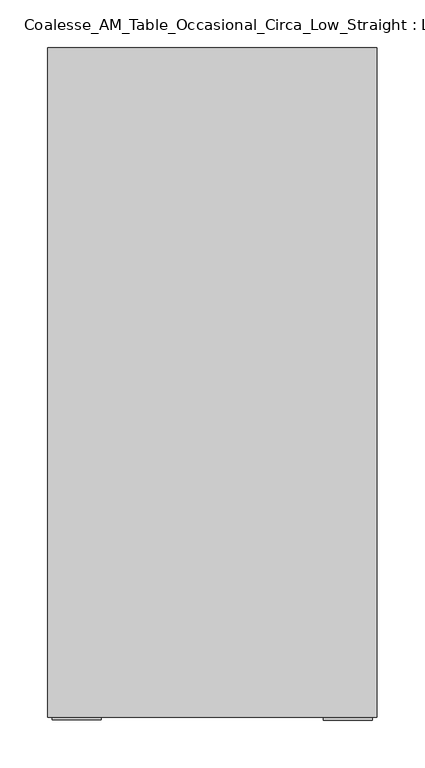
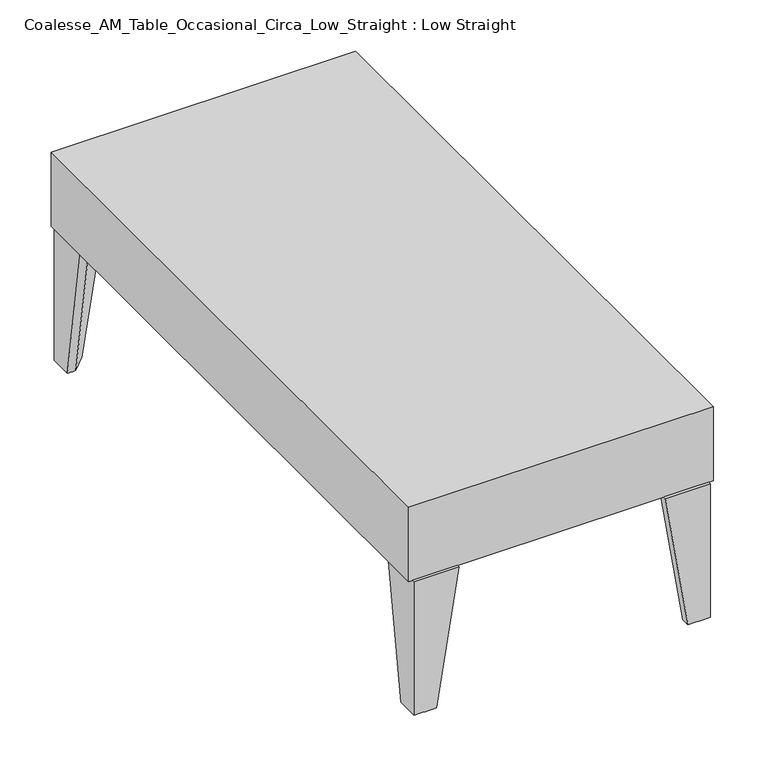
"""IFC4 building model written with IfcOpenShell, lengths in millimetres: furniture geometry, Coalesse_AM_Table_Occasional_Circa_Low_Straight : Low Straight."""

import ifcopenshell
import ifcopenshell.guid

model = None  # the IFC model being written
_history = None  # IfcOwnerHistory: only IFC2X3 demands one
_inside = {}  # id of a spatial element -> (the spatial element, [elements in it])
_under = {}  # id of a project, library or spatial element -> (it, [spatial elements below it])
_declared = {}  # id of a project -> (the project, [libraries it declares])
_typed = {}  # id of a type object -> (the type object, [elements of that type])
_made_of = {}  # id of a material, layer set ... -> (it, [elements and type objects made of it])


def new_model(schema):
    """Start an empty IFC model of exactly this schema.

    Asked for "IFC4X3", IfcOpenShell would pick the latest addendum, in which some entities
    have other attributes; the version numbers below select the first issue.
    IFC2X3 requires an IfcOwnerHistory on every rooted entity: one is made here for all.
    """
    global model, _history
    if schema == "IFC4X3":
        model = ifcopenshell.file(schema_version=(4, 3, 0, 0))
    else:
        model = ifcopenshell.file(schema=schema)
    _inside.clear()
    _under.clear()
    _declared.clear()
    _typed.clear()
    _made_of.clear()
    _history = None
    if model.schema == "IFC2X3":
        org = make("IfcOrganization", Name="unknown")
        user = make(
            "IfcPersonAndOrganization",
            ThePerson=make("IfcPerson", FamilyName="unknown"),
            TheOrganization=org,
        )
        app = make(
            "IfcApplication",
            ApplicationDeveloper=org,
            Version="unknown",
            ApplicationFullName="unknown",
            ApplicationIdentifier="unknown",
        )
        _history = make(
            "IfcOwnerHistory",
            OwningUser=user,
            OwningApplication=app,
            ChangeAction="ADDED",
            CreationDate=0,
        )
    return model


def make(cls, **values):
    """One entity of the class cls with the attributes given. An attribute that is None is left unset."""
    return model.create_entity(
        cls, **{name: value for name, value in values.items() if value is not None}
    )


def rooted(cls, **values):
    """An entity with a GlobalId (a new one), such as an element, a storey or a relation."""
    return make(cls, GlobalId=ifcopenshell.guid.new(), OwnerHistory=_history, **values)


def si_unit(unit_type, name, prefix=None):
    """IfcSIUnit, for example si_unit("LENGTHUNIT", "METRE", prefix="MILLI")."""
    return make("IfcSIUnit", UnitType=unit_type, Prefix=prefix, Name=name)


def assignment(units):
    """IfcUnitAssignment: the units of a project."""
    return None if units is None else make("IfcUnitAssignment", Units=units)


def point(xyz):
    """IfcCartesianPoint."""
    return None if xyz is None else make("IfcCartesianPoint", Coordinates=xyz)


def direction(xyz):
    """IfcDirection."""
    return None if xyz is None else make("IfcDirection", DirectionRatios=xyz)


def frame(location, z_axis=None, x_axis=None):
    """IfcAxis2Placement3D, a coordinate frame: its origin and axes. An axis left out is left unset."""
    return make(
        "IfcAxis2Placement3D",
        Location=point(location),
        Axis=direction(z_axis),
        RefDirection=direction(x_axis),
    )


def origin():
    """The frame at (0, 0, 0) with its axes left unset."""
    return frame((0.0, 0.0, 0.0))


def place(relative_to, where):
    """IfcLocalPlacement: puts the frame where relative to a parent placement (None: the world)."""
    return make(
        "IfcLocalPlacement", PlacementRelTo=relative_to, RelativePlacement=where
    )


def context(
    kind, dimensions, precision=None, world=None, true_north=None, identifier=None
):
    """IfcGeometricRepresentationContext, for example the 3D "Model" context."""
    return make(
        "IfcGeometricRepresentationContext",
        ContextIdentifier=identifier,
        ContextType=kind,
        CoordinateSpaceDimension=dimensions,
        Precision=precision,
        WorldCoordinateSystem=world,
        TrueNorth=true_north,
    )


def project(units=None, contexts=None):
    """IfcProject with its units and contexts."""
    return rooted(
        "IfcProject",
        Name="project",
        RepresentationContexts=contexts,
        UnitsInContext=assignment(units),
    )


def spatial(cls, under=None, at=None, **own):
    """A site, building, storey or space (cls), placed at a placement, below another one or the project."""
    s = rooted(cls, ObjectPlacement=at, **own)
    if under is not None:
        _under.setdefault(under.id(), (under, []))[1].append(s)
    return s


def polyline(points):
    """IfcPolyline through the points."""
    return make("IfcPolyline", Points=[point(p) for p in points])


def outline(outer, holes=None, kind="AREA"):
    """IfcArbitraryClosedProfileDef: a profile drawn as a closed curve; with holes, ...WithVoids."""
    if holes is None:
        return make("IfcArbitraryClosedProfileDef", ProfileType=kind, OuterCurve=outer)
    return make(
        "IfcArbitraryProfileDefWithVoids",
        ProfileType=kind,
        OuterCurve=outer,
        InnerCurves=holes,
    )


def extrude(swept, where, along, depth):
    """IfcExtrudedAreaSolid: the profile swept, set in the frame where, extruded along a direction by depth."""
    return make(
        "IfcExtrudedAreaSolid",
        SweptArea=swept,
        Position=where,
        ExtrudedDirection=direction(along),
        Depth=depth,
    )


def shape(context_of_items, identifier, shape_type, items):
    """IfcShapeRepresentation: the items that make up one representation, for example the "Body"."""
    return make(
        "IfcShapeRepresentation",
        ContextOfItems=context_of_items,
        RepresentationIdentifier=identifier,
        RepresentationType=shape_type,
        Items=items,
    )


def source(mapping_origin, context_of_items, identifier, shape_type, items):
    """IfcRepresentationMap: a shape defined once, which mapped items show again and again."""
    return make(
        "IfcRepresentationMap",
        MappingOrigin=mapping_origin,
        MappedRepresentation=shape(context_of_items, identifier, shape_type, items),
    )


def transform(
    local_origin,
    x_axis=None,
    y_axis=None,
    z_axis=None,
    scale=None,
    scale2=None,
    scale3=None,
    uniform=True,
):
    """IfcCartesianTransformationOperator3D, or its non-uniform kind. x_axis, y_axis, z_axis: its Axis1, 2, 3."""
    if uniform:
        return make(
            "IfcCartesianTransformationOperator3D",
            Axis1=direction(x_axis),
            Axis2=direction(y_axis),
            LocalOrigin=point(local_origin),
            Scale=scale,
            Axis3=direction(z_axis),
        )
    return make(
        "IfcCartesianTransformationOperator3DnonUniform",
        Axis1=direction(x_axis),
        Axis2=direction(y_axis),
        LocalOrigin=point(local_origin),
        Scale=scale,
        Axis3=direction(z_axis),
        Scale2=scale2,
        Scale3=scale3,
    )


def mapped(mapping_source, mapping_target):
    """IfcMappedItem: shows the shape of a source again, moved by a transform."""
    return make(
        "IfcMappedItem", MappingSource=mapping_source, MappingTarget=mapping_target
    )


def made_of(thing, what):
    """Note that an element or type object is made of a material, layer set ...; save() writes the relation."""
    if what is not None:
        _made_of.setdefault(what.id(), (what, []))[1].append(thing)
    return thing


def element(
    cls,
    number,
    at=None,
    inside=None,
    cuts=None,
    type_object=None,
    material=None,
    context=None,
    identifier="Body",
    shape_type=None,
    held_by="IfcProductDefinitionShape",
    body=None,
    shapes=None,
    **own,
):
    """One element of the class cls, such as IfcWall. Its Tag is "e" and its number.

    at: its placement. inside: the storey or other place that contains it. cuts: it is an
    opening in that element (IfcRelVoidsElement). A single representation is given by context,
    identifier, shape_type and body (its items); several are given by shapes. held_by: the class
    of the entity that holds the representations. save() writes the other relations.
    """
    e = rooted(cls, Tag="e%d" % number, ObjectPlacement=at, **own)
    if body is not None:
        shapes = [shape(context, identifier, shape_type, body)]
    if shapes is not None:
        e.Representation = make(held_by, Representations=shapes)
    if inside is not None:
        _inside.setdefault(inside.id(), (inside, []))[1].append(e)
    if cuts is not None:
        rooted(
            "IfcRelVoidsElement", RelatingBuildingElement=cuts, RelatedOpeningElement=e
        )
    if type_object is not None:
        _typed.setdefault(type_object.id(), (type_object, []))[1].append(e)
    return made_of(e, material)


def aggregate(whole, parts):
    """IfcRelAggregates: a whole, such as a stair, and the parts it consists of."""
    return rooted("IfcRelAggregates", RelatingObject=whole, RelatedObjects=parts)


def save(model, path):
    """Write the relations noted so far, then the file.

    IfcRelAggregates (storeys below a building ...), IfcRelContainedInSpatialStructure (elements
    in a storey), IfcRelDefinesByType, IfcRelAssociatesMaterial and IfcRelDeclares: one each for
    every whole, place, type object, material and project.
    """
    for whole, parts in _under.values():
        aggregate(whole, parts)
    for where, things in _inside.values():
        rooted(
            "IfcRelContainedInSpatialStructure",
            RelatedElements=things,
            RelatingStructure=where,
        )
    for kind, things in _typed.values():
        rooted("IfcRelDefinesByType", RelatedObjects=things, RelatingType=kind)
    for what, things in _made_of.values():
        rooted("IfcRelAssociatesMaterial", RelatedObjects=things, RelatingMaterial=what)
    for by, libraries in _declared.values():
        rooted("IfcRelDeclares", RelatingContext=by, RelatedDefinitions=libraries)
    model.write(path)


def plane_surface(at):
    """IfcPlane: the flat surface through the origin of the frame at, square to its z axis."""
    return make("IfcPlane", Position=at)


def spline_surface(u_degree, v_degree, points, u_multiplicities, v_multiplicities, u_knots, v_knots, weights=None):
    """IfcBSplineSurfaceWithKnots; with weights, IfcRationalBSplineSurfaceWithKnots. points: one row for each step in u."""
    own = dict(
        UDegree=u_degree,
        VDegree=v_degree,
        ControlPointsList=[[point(p) for p in row] for row in points],
        SurfaceForm="UNSPECIFIED",
        UClosed=False,
        VClosed=False,
        SelfIntersect=False,
        UMultiplicities=u_multiplicities,
        VMultiplicities=v_multiplicities,
        UKnots=u_knots,
        VKnots=v_knots,
        KnotSpec="UNSPECIFIED",
    )
    if weights is None:
        return make("IfcBSplineSurfaceWithKnots", **own)
    return make("IfcRationalBSplineSurfaceWithKnots", WeightsData=weights, **own)


def advanced_brep(points, edges, surfaces, faces):
    """IfcAdvancedBrep: a solid bounded by faces that lie on surfaces and meet in shared edges.

    An edge is (start, end): straight between two places in points (the first is 0);
    or (start, end, curve); or (start, end, curve, False) where it runs against its curve.
    A face is (place in surfaces, loops), or (place, loops, False) where it looks against
    its surface's normal. A loop lists edges by number (the first is 1), with a minus sign
    where the edge is run from its end to its start. The first loop is the outer one.
    """
    corners = [point(p) for p in points]
    vertices = [make("IfcVertexPoint", VertexGeometry=c) for c in corners]
    made = []
    for start, end, *more in edges:
        made.append(
            make(
                "IfcEdgeCurve",
                EdgeStart=vertices[start],
                EdgeEnd=vertices[end],
                EdgeGeometry=more[0] if more else make("IfcPolyline", Points=[corners[start], corners[end]]),
                SameSense=more[1] if len(more) > 1 else True,
            )
        )
    hull = []
    for where, loops, *sense in faces:
        bounds = []
        for j, loop in enumerate(loops):
            ring = [make("IfcOrientedEdge", EdgeElement=made[abs(k) - 1], Orientation=k > 0) for k in loop]
            bounds.append(
                make(
                    "IfcFaceOuterBound" if j == 0 else "IfcFaceBound",
                    Bound=make("IfcEdgeLoop", EdgeList=ring),
                    Orientation=True,
                )
            )
        hull.append(make("IfcAdvancedFace", Bounds=bounds, FaceSurface=surfaces[where], SameSense=sense[0] if sense else True))
    return make("IfcAdvancedBrep", Outer=make("IfcClosedShell", CfsFaces=hull))


def coalesse_am_table_occasional_circa_low_straight_low_straight_29d6d99f(model_context):
    return source(origin(), model_context, "Body", "SolidModel", [
        advanced_brep(
        [(-322.383652, 214.2603105, 0.0), (-322.3836883, 188.8603105, 0.0), (-331.908107, 188.8602515, 0.0), (-347.7821153, 204.734596, 0.0), (-347.7821017, 214.2603469, 0.0), (-322.3830706, 214.2591236, 159.258), (-373.1811328, 214.2591236, 159.258), (-373.1811464, 204.7344869, 159.258), (-331.9081433, 163.4616564, 159.258), (-322.3831433, 163.4616428, 159.258)],
        [
            (0, 1),
            (1, 2),
            (2, 3),
            (3, 4),
            (4, 0),
            (5, 6),
            (6, 7),
            (7, 8),
            (8, 9),
            (9, 5),
            (9, 1),
            (0, 5),
            (8, 2),
            (7, 3),
            (6, 4),
        ],
        [
            plane_surface(frame((-334.4479329, 202.1951631, 0.0), z_axis=(0.0, 0.0, -1.0000000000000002), x_axis=(1.4305660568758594e-06, 0.9999999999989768, 0.0))),
            plane_surface(frame((-344.6073273, 192.0352067, 159.258), z_axis=(0.0, 0.0, 1.0000000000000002), x_axis=(1.4305660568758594e-06, 0.9999999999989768, 0.0))),
            plane_surface(frame((-322.383107, 188.8603832, 159.258), z_axis=(0.999999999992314, -1.430566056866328e-06, -3.650428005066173e-06), x_axis=(-1.4305660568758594e-06, -0.9999999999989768, 0.0))),
            spline_surface(1, 1, [[(-322.3831433, 163.4616428, 159.258), (-322.3836883, 188.8603105, 0.0)], [(-331.9081433, 163.4616564, 159.258), (-331.908107, 188.8602515, 0.0)]], [2, 2], [2, 2], [0.0, 1.0], [0.0, 1.0]),
            spline_surface(1, 1, [[(-331.9081433, 163.4616564, 159.258), (-331.908107, 188.8602515, 0.0)], [(-373.1811464, 204.7344869, 159.258), (-347.7821153, 204.734596, 0.0)]], [2, 2], [2, 2], [0.0, 1.0], [0.0, 1.0]),
            plane_surface(frame((-373.1811396, 209.4968053, 159.258), z_axis=(-0.9875200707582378, 1.4127126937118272e-06, -0.15749320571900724), x_axis=(1.4305660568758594e-06, 0.9999999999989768, 0.0))),
            spline_surface(1, 1, [[(-373.1811328, 214.2591236, 159.258), (-347.7821017, 214.2603469, 0.0)], [(-322.3830706, 214.2591236, 159.258), (-322.383652, 214.2603105, 0.0)]], [2, 2], [2, 2], [0.0, 1.0], [0.0, 1.0]),
        ],
        [
            (0, [[1, 2, 3, 4, 5]]),
            (1, [[6, 7, 8, 9, 10]]),
            (2, [[-10, 11, -1, 12]]),
            (3, [[-9, 13, -2, -11]]),
            (4, [[-8, 14, -3, -13]]),
            (5, [[-7, 15, -4, -14]]),
            (6, [[-6, -12, -5, -15]]),
        ],
    ),
        advanced_brep(
        [(-325.4409859, -484.6427555, 0.0), (-350.8394356, -484.6427918, 0.0), (-350.8394492, -475.1170409, 0.0), (-334.9654408, -459.2426965, 0.0), (-325.4410222, -459.2427555, 0.0), (-325.4404045, -484.6415686, 159.258), (-325.4404772, -433.8440878, 159.258), (-334.9654772, -433.8441014, 159.258), (-376.2384803, -475.1169319, 159.258), (-376.2384666, -484.6415686, 159.258)],
        [
            (0, 1),
            (1, 2),
            (2, 3),
            (3, 4),
            (4, 0),
            (5, 6),
            (6, 7),
            (7, 8),
            (8, 9),
            (9, 5),
            (9, 1),
            (0, 5),
            (8, 2),
            (7, 3),
            (6, 4),
        ],
        [
            plane_surface(frame((-337.5052667, -472.577608, 0.0), z_axis=(0.0, 0.0, -1.0000000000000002), x_axis=(-0.9999999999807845, 6.19929416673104e-06, 0.0))),
            plane_surface(frame((-347.6646611, -462.4176516, 159.258), z_axis=(0.0, 0.0, 1.0000000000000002), x_axis=(-0.9999999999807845, 6.19929416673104e-06, 0.0))),
            spline_surface(1, 1, [[(-325.4404045, -484.6415686, 159.258), (-325.4409859, -484.6427555, 0.0)], [(-376.2384666, -484.6415686, 159.258), (-350.8394356, -484.6427918, 0.0)]], [2, 2], [2, 2], [0.0, 1.0], [0.0, 1.0]),
            plane_surface(frame((-376.2384734, -479.8792502, 159.258), z_axis=(-0.9875200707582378, -1.4127126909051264e-06, -0.15749320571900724), x_axis=(-1.4305660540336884e-06, 0.9999999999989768, 0.0))),
            spline_surface(1, 1, [[(-376.2384803, -475.1169319, 159.258), (-350.8394492, -475.1170409, 0.0)], [(-334.9654772, -433.8441014, 159.258), (-334.9654408, -459.2426965, 0.0)]], [2, 2], [2, 2], [0.0, 1.0], [0.0, 1.0]),
            spline_surface(1, 1, [[(-334.9654772, -433.8441014, 159.258), (-334.9654408, -459.2426965, 0.0)], [(-325.4404772, -433.8440878, 159.258), (-325.4410222, -459.2427555, 0.0)]], [2, 2], [2, 2], [0.0, 1.0], [0.0, 1.0]),
            plane_surface(frame((-325.4404408, -459.2428282, 159.258), z_axis=(0.999999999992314, 1.430566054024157e-06, -3.6504280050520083e-06), x_axis=(1.4305660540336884e-06, -0.9999999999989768, 0.0))),
        ],
        [
            (0, [[1, 2, 3, 4, 5]]),
            (1, [[6, 7, 8, 9, 10]]),
            (2, [[-10, 11, -1, 12]]),
            (3, [[-9, 13, -2, -11]]),
            (4, [[-8, 14, -3, -13]]),
            (5, [[-7, 15, -4, -14]]),
            (6, [[-6, -12, -5, -15]]),
        ],
    ),
        advanced_brep(
        [(-661.6348061, 214.2603105, 0.0), (-636.2363564, 214.2603469, 0.0), (-636.2363428, 204.734596, 0.0), (-652.1103511, 188.8602515, 0.0), (-661.6347698, 188.8603105, 0.0), (-661.6353875, 214.2591236, 159.258), (-661.6353148, 163.4616428, 159.258), (-652.1103148, 163.4616564, 159.258), (-610.8373117, 204.7344869, 159.258), (-610.8373253, 214.2591236, 159.258)],
        [
            (0, 1),
            (1, 2),
            (2, 3),
            (3, 4),
            (4, 0),
            (5, 6),
            (6, 7),
            (7, 8),
            (8, 9),
            (9, 5),
            (9, 1),
            (0, 5),
            (8, 2),
            (7, 3),
            (6, 4),
        ],
        [
            plane_surface(frame((-649.5705252, 202.1951631, 0.0), z_axis=(0.0, 0.0, -1.0000000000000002), x_axis=(0.9999999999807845, -6.199294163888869e-06, 0.0))),
            plane_surface(frame((-639.4111308, 192.0352067, 159.258), z_axis=(0.0, 0.0, 1.0000000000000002), x_axis=(0.9999999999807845, -6.199294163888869e-06, 0.0))),
            spline_surface(1, 1, [[(-661.6353875, 214.2591236, 159.258), (-661.6348061, 214.2603105, 0.0)], [(-610.8373253, 214.2591236, 159.258), (-636.2363564, 214.2603469, 0.0)]], [2, 2], [2, 2], [0.0, 1.0], [0.0, 1.0]),
            plane_surface(frame((-610.8373185, 209.4968053, 159.258), z_axis=(0.9875200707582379, 1.4127126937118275e-06, -0.15749320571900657), x_axis=(1.4305660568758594e-06, -0.9999999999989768, 0.0))),
            spline_surface(1, 1, [[(-610.8373117, 204.7344869, 159.258), (-636.2363428, 204.734596, 0.0)], [(-652.1103148, 163.4616564, 159.258), (-652.1103511, 188.8602515, 0.0)]], [2, 2], [2, 2], [0.0, 1.0], [0.0, 1.0]),
            spline_surface(1, 1, [[(-652.1103148, 163.4616564, 159.258), (-652.1103511, 188.8602515, 0.0)], [(-661.6353148, 163.4616428, 159.258), (-661.6347698, 188.8603105, 0.0)]], [2, 2], [2, 2], [0.0, 1.0], [0.0, 1.0]),
            plane_surface(frame((-661.6353511, 188.8603832, 159.258), z_axis=(-0.999999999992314, -1.430566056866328e-06, -3.6504280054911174e-06), x_axis=(-1.4305660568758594e-06, 0.9999999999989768, 0.0))),
        ],
        [
            (0, [[1, 2, 3, 4, 5]]),
            (1, [[6, 7, 8, 9, 10]]),
            (2, [[-10, 11, -1, 12]]),
            (3, [[-9, 13, -2, -11]]),
            (4, [[-8, 14, -3, -13]]),
            (5, [[-7, 15, -4, -14]]),
            (6, [[-6, -12, -5, -15]]),
        ],
    ),
        advanced_brep(
        [(-659.3133484, -484.3245048, 0.0), (-659.3133121, -458.9245048, 0.0), (-649.7888935, -458.9244458, 0.0), (-633.9148851, -474.7987902, 0.0), (-633.9148987, -484.3245411, 0.0), (-659.3139298, -484.3233179, 159.258), (-608.5158677, -484.3233179, 159.258), (-608.515854, -474.7986812, 159.258), (-649.7888571, -433.5258507, 159.258), (-659.3138571, -433.5258371, 159.258)],
        [
            (0, 1),
            (1, 2),
            (2, 3),
            (3, 4),
            (4, 0),
            (5, 6),
            (6, 7),
            (7, 8),
            (8, 9),
            (9, 5),
            (9, 1),
            (0, 5),
            (8, 2),
            (7, 3),
            (6, 4),
        ],
        [
            plane_surface(frame((-647.2490676, -472.2593574, 0.0), z_axis=(0.0, 0.0, -1.0000000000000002), x_axis=(-1.4305660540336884e-06, -0.9999999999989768, 0.0))),
            plane_surface(frame((-637.0896732, -462.099401, 159.258), z_axis=(0.0, 0.0, 1.0000000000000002), x_axis=(-1.4305660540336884e-06, -0.9999999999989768, 0.0))),
            plane_surface(frame((-659.3138935, -458.9245775, 159.258), z_axis=(-0.999999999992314, 1.430566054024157e-06, -3.65042800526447e-06), x_axis=(1.4305660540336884e-06, 0.9999999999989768, 0.0))),
            spline_surface(1, 1, [[(-659.3138571, -433.5258371, 159.258), (-659.3133121, -458.9245048, 0.0)], [(-649.7888571, -433.5258507, 159.258), (-649.7888935, -458.9244458, 0.0)]], [2, 2], [2, 2], [0.0, 1.0], [0.0, 1.0]),
            spline_surface(1, 1, [[(-649.7888571, -433.5258507, 159.258), (-649.7888935, -458.9244458, 0.0)], [(-608.515854, -474.7986812, 159.258), (-633.9148851, -474.7987902, 0.0)]], [2, 2], [2, 2], [0.0, 1.0], [0.0, 1.0]),
            plane_surface(frame((-608.5158609, -479.5609995, 159.258), z_axis=(0.9875200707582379, -1.4127126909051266e-06, -0.15749320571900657), x_axis=(-1.4305660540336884e-06, -0.9999999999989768, 0.0))),
            spline_surface(1, 1, [[(-608.5158677, -484.3233179, 159.258), (-633.9148987, -484.3245411, 0.0)], [(-659.3139298, -484.3233179, 159.258), (-659.3133484, -484.3245048, 0.0)]], [2, 2], [2, 2], [0.0, 1.0], [0.0, 1.0]),
        ],
        [
            (0, [[1, 2, 3, 4, 5]]),
            (1, [[6, 7, 8, 9, 10]]),
            (2, [[-10, 11, -1, 12]]),
            (3, [[-9, 13, -2, -11]]),
            (4, [[-8, 14, -3, -13]]),
            (5, [[-7, 15, -4, -14]]),
            (6, [[-6, -12, -5, -15]]),
        ],
    ),
        extrude(outline(polyline([(-663.917922, 216.2403236), (-320.559229, 216.2403236), (-320.559229, -481.8179398), (-663.917922, -481.8179398), (-663.917922, 216.2403236)])), frame((0.0, 0.0, 159.258), z_axis=(0.0, 0.0, 1.0), x_axis=(1.0, 0.0, 0.0)), (0.0, 0.0, 1.0), 88.3365866),
    ])


if __name__ == "__main__":
    model = new_model("IFC4")
    model_context = context("Model", 3, world=origin())
    ifc_project = project(units=[si_unit("LENGTHUNIT", "METRE", prefix="MILLI")], contexts=[model_context])
    site = spatial("IfcSite", under=ifc_project)
    building = spatial("IfcBuilding", under=site)
    placement = place(None, origin())
    coalesse_am_table_occasional_circa_low_straight_low_straight_shape = coalesse_am_table_occasional_circa_low_straight_low_straight_29d6d99f(model_context)
    element("IfcFurniture", 1, ObjectType="Coalesse_AM_Table_Occasional_Circa_Low_Straight : Low Straight", at=placement, inside=building, context=model_context, shape_type="MappedRepresentation", body=[
        mapped(coalesse_am_table_occasional_circa_low_straight_low_straight_shape, transform((0.0, 0.0, 0.0), x_axis=(1.0, 0.0, 0.0), y_axis=(0.0, 1.0, 0.0), z_axis=(0.0, 0.0, 1.0))),
    ])
    save(model, "model.ifc")
